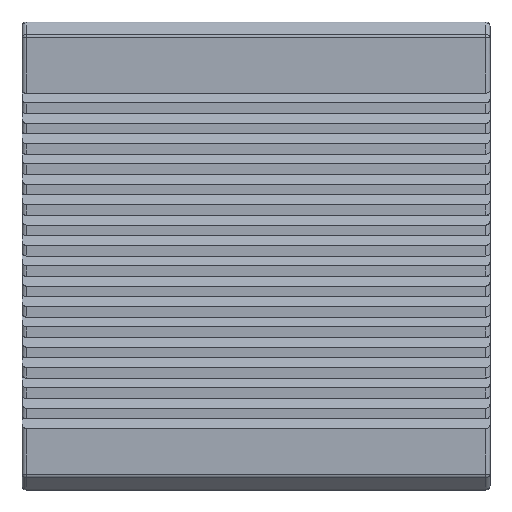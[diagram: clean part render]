
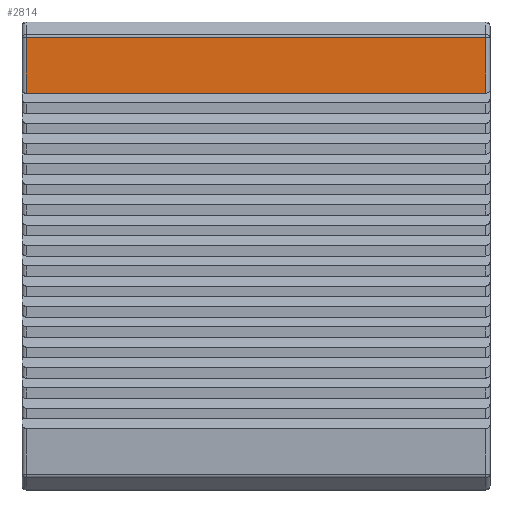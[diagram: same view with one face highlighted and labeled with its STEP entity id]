
A CAD part, front view. The second image highlights one B-rep face of the part: STEP entity #2814.
In plain terms, the highlighted planar face has unit normal (0, -1, 0).
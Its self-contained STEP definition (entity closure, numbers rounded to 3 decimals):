
#210=LINE('',#4354,#512);
#296=LINE('',#4595,#598);
#308=LINE('',#4617,#610);
#309=LINE('',#4618,#611);
#512=VECTOR('',#3464,10.);
#598=VECTOR('',#3672,10.);
#610=VECTOR('',#3700,10.);
#611=VECTOR('',#3701,10.);
#764=PLANE('',#3056);
#932=FACE_OUTER_BOUND('',#1100,.T.);
#1100=EDGE_LOOP('',(#2273,#2274,#2275,#2276));
#1351=VERTEX_POINT('',#4351);
#1352=VERTEX_POINT('',#4353);
#1446=VERTEX_POINT('',#4593);
#1448=VERTEX_POINT('',#4616);
#1643=EDGE_CURVE('',#1352,#1351,#210,.T.);
#1762=EDGE_CURVE('',#1446,#1351,#296,.T.);
#1774=EDGE_CURVE('',#1448,#1446,#308,.T.);
#1775=EDGE_CURVE('',#1352,#1448,#309,.T.);
#2273=ORIENTED_EDGE('',*,*,#1643,.T.);
#2274=ORIENTED_EDGE('',*,*,#1762,.F.);
#2275=ORIENTED_EDGE('',*,*,#1774,.F.);
#2276=ORIENTED_EDGE('',*,*,#1775,.F.);
#2814=ADVANCED_FACE('',(#932),#764,.T.);
#3056=AXIS2_PLACEMENT_3D('',#4615,#3698,#3699);
#3464=DIRECTION('',(1.,0.,0.));
#3672=DIRECTION('',(0.,0.,-1.));
#3698=DIRECTION('center_axis',(0.,-1.,0.));
#3699=DIRECTION('ref_axis',(0.,0.,-1.));
#3700=DIRECTION('',(1.,0.,0.));
#3701=DIRECTION('',(0.,0.,1.));
#4351=CARTESIAN_POINT('',(165.5,-19.5,117.217));
#4353=CARTESIAN_POINT('',(-165.5,-19.5,117.217));
#4354=CARTESIAN_POINT('',(84.25,-19.5,117.217));
#4593=CARTESIAN_POINT('',(165.5,-19.5,157.257));
#4595=CARTESIAN_POINT('',(165.5,-19.5,84.25));
#4615=CARTESIAN_POINT('Origin',(0.,-19.5,168.5));
#4616=CARTESIAN_POINT('',(-165.5,-19.5,157.257));
#4617=CARTESIAN_POINT('',(0.,-19.5,157.257));
#4618=CARTESIAN_POINT('',(-165.5,-19.5,84.25));
